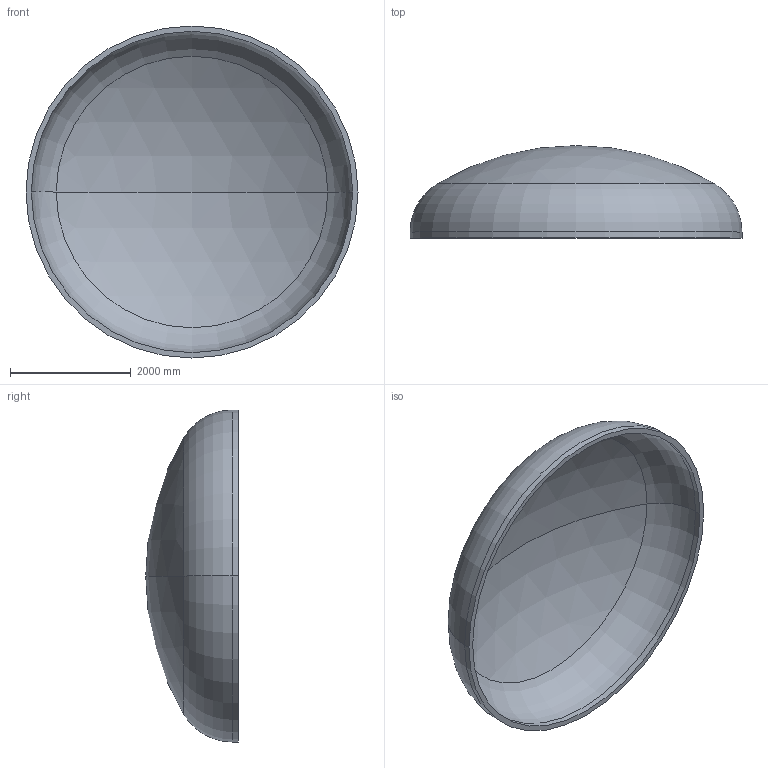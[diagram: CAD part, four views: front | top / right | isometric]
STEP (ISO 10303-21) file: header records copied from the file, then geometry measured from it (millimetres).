
FILE_DESCRIPTION (( 'STEP AP203' ), '1' );
FILE_NAME ('DIN 28013 Korbbogenform_-_Boden DIN 28013 - 5500 x 100 - I - s=88.step', '2016-07-04T10:34:58', ( '' ), ( '' ), 'SwSTEP 2.0', 'SolidWorks 2013', '' );
FILE_SCHEMA (( 'CONFIG_CONTROL_DESIGN' ));
Length unit declared in the file: millimetre
Products named in the file (1): DIN 28013 Korbbogenform_-_Boden DIN 28013 - 5500 x 100 - I - s=88
Bounding box: 5500 x 1532.43 x 5500 mm (x, y, z)
Volume: 2983419188.2 mm3; surface area: 69317377.7 mm2
Topology: 1 solids, 1 shells, 13 faces, 24 edges, 14 vertices
Faces by surface type: torus 4, cylinder 4, sphere 4, plane 1
Entity records: 407 total; most frequent: DIRECTION 72, CARTESIAN_POINT 52, ORIENTED_EDGE 48, AXIS2_PLACEMENT_3D 34, EDGE_CURVE 24, CIRCLE 20, EDGE_LOOP 14, VERTEX_POINT 14
